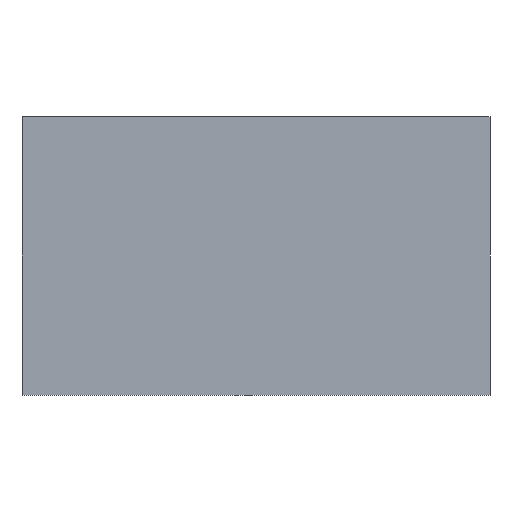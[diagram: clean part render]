
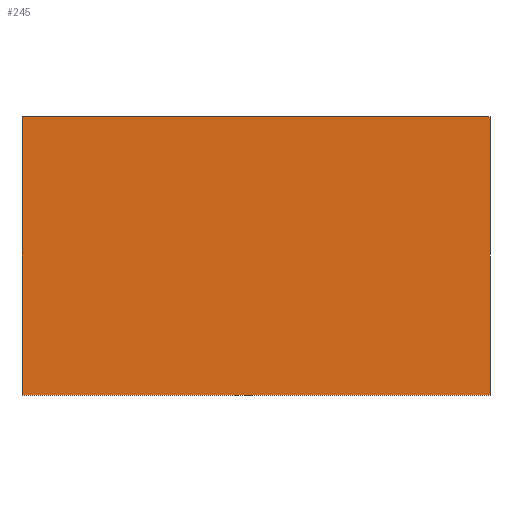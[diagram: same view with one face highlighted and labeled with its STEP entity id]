
A CAD part, front view. The second image highlights one B-rep face of the part: STEP entity #245.
In plain terms, the highlighted planar face has unit normal (0, -1, 0).
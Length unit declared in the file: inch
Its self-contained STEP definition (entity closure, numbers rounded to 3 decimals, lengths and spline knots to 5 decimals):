
#32 = ORIENTED_EDGE ( 'NONE', *, *, #1187, .T. ) ;
#39 = EDGE_CURVE ( 'NONE', #284, #1384, #1805, .T. ) ;
#90 = CARTESIAN_POINT ( 'NONE',  ( 10.91987, -6.79, -6.48987 ) ) ;
#165 = CARTESIAN_POINT ( 'NONE',  ( 10.91987, -6.79, -6.48987 ) ) ;
#178 = VERTEX_POINT ( 'NONE', #1417 ) ;
#207 = DIRECTION ( 'NONE',  ( 0., 0., 1. ) ) ;
#245 = ADVANCED_FACE ( 'NONE', ( #618 ), #476, .F. ) ;
#284 = VERTEX_POINT ( 'NONE', #1454 ) ;
#311 = LINE ( 'NONE', #165, #1394 ) ;
#379 = VERTEX_POINT ( 'NONE', #90 ) ;
#476 = PLANE ( 'NONE',  #1535 ) ;
#509 = DIRECTION ( 'NONE',  ( 0., 0., -1. ) ) ;
#618 = FACE_OUTER_BOUND ( 'NONE', #1477, .T. ) ;
#754 = DIRECTION ( 'NONE',  ( 1., 0., 0. ) ) ;
#875 = DIRECTION ( 'NONE',  ( 0., 1., 0. ) ) ;
#910 = DIRECTION ( 'NONE',  ( 0., 0., 1. ) ) ;
#940 = LINE ( 'NONE', #1806, #1794 ) ;
#953 = DIRECTION ( 'NONE',  ( -1., 0., 0. ) ) ;
#955 = VECTOR ( 'NONE', #509, 39.37008 ) ;
#965 = LINE ( 'NONE', #1686, #999 ) ;
#993 = ORIENTED_EDGE ( 'NONE', *, *, #1613, .T. ) ;
#999 = VECTOR ( 'NONE', #953, 39.37008 ) ;
#1031 = ORIENTED_EDGE ( 'NONE', *, *, #39, .T. ) ;
#1042 = ORIENTED_EDGE ( 'NONE', *, *, #1515, .T. ) ;
#1187 = EDGE_CURVE ( 'NONE', #178, #284, #965, .T. ) ;
#1216 = CARTESIAN_POINT ( 'NONE',  ( -10.33, -6.79, 5.9 ) ) ;
#1384 = VERTEX_POINT ( 'NONE', #1439 ) ;
#1394 = VECTOR ( 'NONE', #754, 39.37008 ) ;
#1417 = CARTESIAN_POINT ( 'NONE',  ( 10.91987, -6.79, 6.48987 ) ) ;
#1439 = CARTESIAN_POINT ( 'NONE',  ( -10.91987, -6.79, -6.48987 ) ) ;
#1454 = CARTESIAN_POINT ( 'NONE',  ( -10.91987, -6.79, 6.48987 ) ) ;
#1477 = EDGE_LOOP ( 'NONE', ( #993, #32, #1031, #1042 ) ) ;
#1515 = EDGE_CURVE ( 'NONE', #1384, #379, #311, .T. ) ;
#1535 = AXIS2_PLACEMENT_3D ( 'NONE', #1216, #875, #910 ) ;
#1613 = EDGE_CURVE ( 'NONE', #379, #178, #940, .T. ) ;
#1686 = CARTESIAN_POINT ( 'NONE',  ( 10.91987, -6.79, 6.48987 ) ) ;
#1690 = CARTESIAN_POINT ( 'NONE',  ( -10.91987, -6.79, 6.48987 ) ) ;
#1794 = VECTOR ( 'NONE', #207, 39.37008 ) ;
#1805 = LINE ( 'NONE', #1690, #955 ) ;
#1806 = CARTESIAN_POINT ( 'NONE',  ( 10.91987, -6.79, 6.48987 ) ) ;
